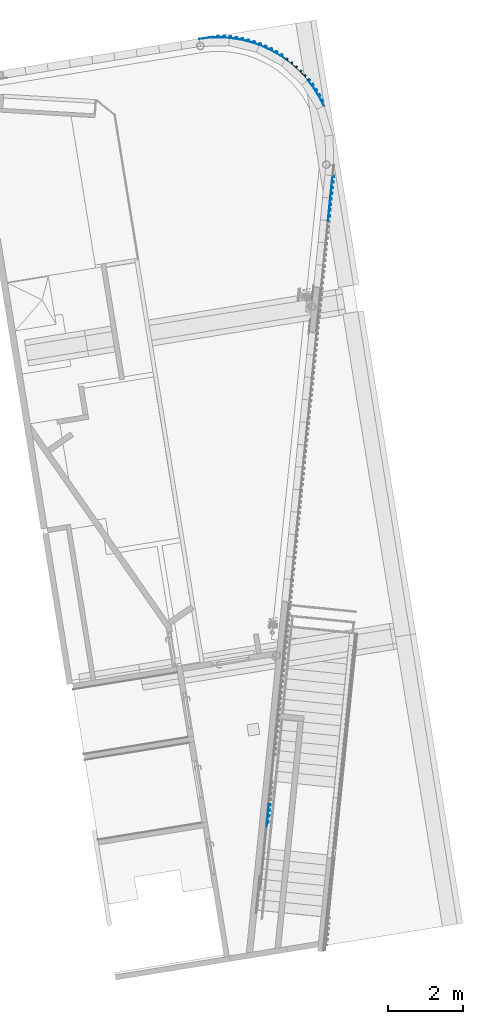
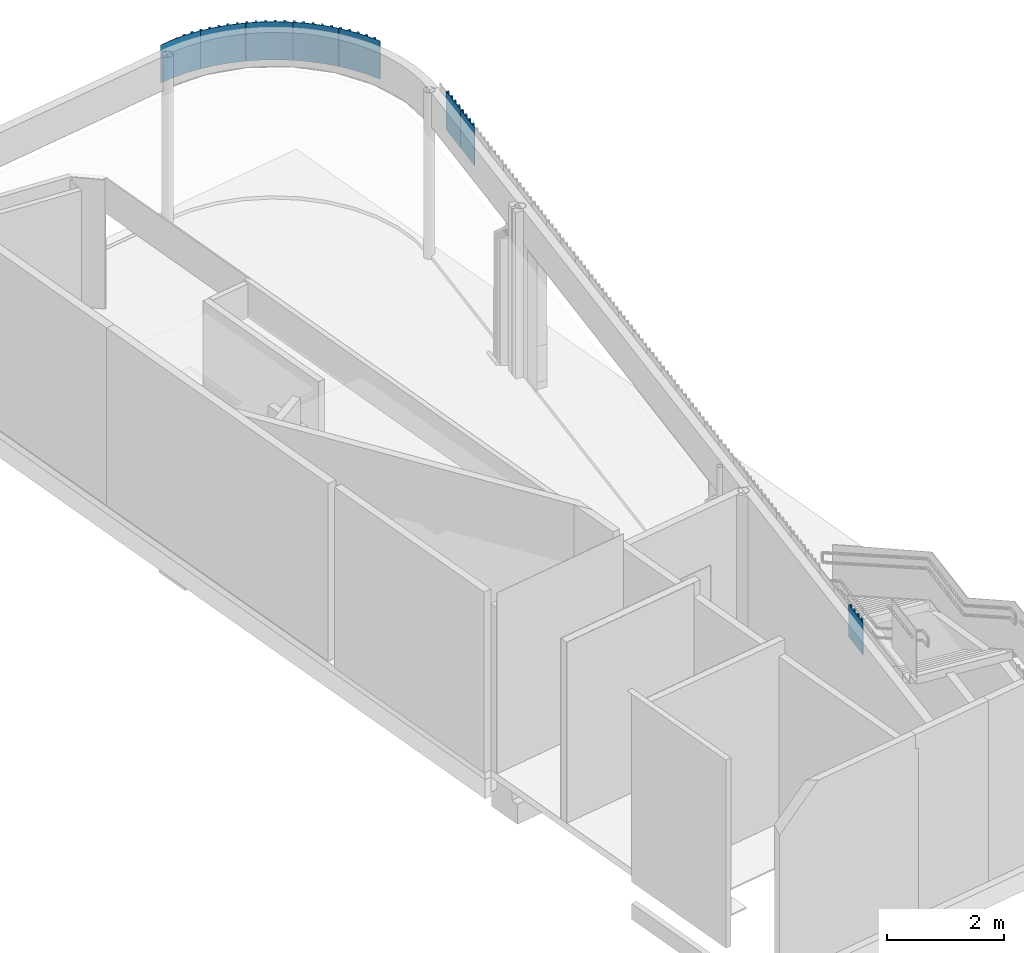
# One storey, part 17 of 23: 8 plates, 3 elements without a shape of their own.
"""IFC2X3 building model written with IfcOpenShell, lengths in millimetres."""

import ifcopenshell
import ifcopenshell.guid

model = None  # the IFC model being written
_history = None  # IfcOwnerHistory: only IFC2X3 demands one
_inside = {}  # id of a spatial element -> (the spatial element, [elements in it])
_under = {}  # id of a project, library or spatial element -> (it, [spatial elements below it])
_declared = {}  # id of a project -> (the project, [libraries it declares])
_typed = {}  # id of a type object -> (the type object, [elements of that type])
_made_of = {}  # id of a material, layer set ... -> (it, [elements and type objects made of it])


def new_model(schema):
    """Start an empty IFC model of exactly this schema.

    Asked for "IFC4X3", IfcOpenShell would pick the latest addendum, in which some entities
    have other attributes; the version numbers below select the first issue.
    IFC2X3 requires an IfcOwnerHistory on every rooted entity: one is made here for all.
    """
    global model, _history
    if schema == "IFC4X3":
        model = ifcopenshell.file(schema_version=(4, 3, 0, 0))
    else:
        model = ifcopenshell.file(schema=schema)
    _inside.clear()
    _under.clear()
    _declared.clear()
    _typed.clear()
    _made_of.clear()
    _history = None
    if model.schema == "IFC2X3":
        org = make("IfcOrganization", Name="unknown")
        user = make(
            "IfcPersonAndOrganization",
            ThePerson=make("IfcPerson", FamilyName="unknown"),
            TheOrganization=org,
        )
        app = make(
            "IfcApplication",
            ApplicationDeveloper=org,
            Version="unknown",
            ApplicationFullName="unknown",
            ApplicationIdentifier="unknown",
        )
        _history = make(
            "IfcOwnerHistory",
            OwningUser=user,
            OwningApplication=app,
            ChangeAction="ADDED",
            CreationDate=0,
        )
    return model


def make(cls, **values):
    """One entity of the class cls with the attributes given. An attribute that is None is left unset."""
    return model.create_entity(
        cls, **{name: value for name, value in values.items() if value is not None}
    )


def entity(cls, *values):
    """Any entity or typed value of the class cls, its attributes in the order of the schema. None: left unset."""
    e = model.create_entity(cls)
    for i, value in enumerate(values):
        if value is not None:
            e[i] = value
    return e


def rooted(cls, **values):
    """An entity with a GlobalId (a new one), such as an element, a storey or a relation."""
    return make(cls, GlobalId=ifcopenshell.guid.new(), OwnerHistory=_history, **values)


def si_unit(unit_type, name, prefix=None):
    """IfcSIUnit, for example si_unit("LENGTHUNIT", "METRE", prefix="MILLI")."""
    return make("IfcSIUnit", UnitType=unit_type, Prefix=prefix, Name=name)


def converted_unit(unit_type, name, factor, base, dimensions=None, offset=None):
    """IfcConversionBasedUnit, such as the inch: factor (a typed value) times the base unit."""
    return make(
        "IfcConversionBasedUnit"
        if offset is None
        else "IfcConversionBasedUnitWithOffset",
        ConversionOffset=offset,
        Dimensions=None
        if dimensions is None
        else entity("IfcDimensionalExponents", *dimensions),
        UnitType=unit_type,
        Name=name,
        ConversionFactor=make(
            "IfcMeasureWithUnit", ValueComponent=factor, UnitComponent=base
        ),
    )


def derived_unit(unit_type, elements):
    """IfcDerivedUnit: a product of units, each with its exponent."""
    return make(
        "IfcDerivedUnit",
        Elements=[
            make("IfcDerivedUnitElement", Unit=unit, Exponent=power)
            for unit, power in elements
        ],
        UnitType=unit_type,
    )


def assignment(units):
    """IfcUnitAssignment: the units of a project."""
    return None if units is None else make("IfcUnitAssignment", Units=units)


def point(xyz):
    """IfcCartesianPoint."""
    return None if xyz is None else make("IfcCartesianPoint", Coordinates=xyz)


def direction(xyz):
    """IfcDirection."""
    return None if xyz is None else make("IfcDirection", DirectionRatios=xyz)


def frame(location, z_axis=None, x_axis=None):
    """IfcAxis2Placement3D, a coordinate frame: its origin and axes. An axis left out is left unset."""
    return make(
        "IfcAxis2Placement3D",
        Location=point(location),
        Axis=direction(z_axis),
        RefDirection=direction(x_axis),
    )


def origin():
    """The frame at (0, 0, 0) with its axes left unset."""
    return frame((0.0, 0.0, 0.0))


def origin_with_axes():
    """The frame at (0, 0, 0) with the z axis (0, 0, 1) and the x axis (1, 0, 0) written out."""
    return frame((0.0, 0.0, 0.0), z_axis=(0.0, 0.0, 1.0), x_axis=(1.0, 0.0, 0.0))


def place(relative_to, where):
    """IfcLocalPlacement: puts the frame where relative to a parent placement (None: the world)."""
    return make(
        "IfcLocalPlacement", PlacementRelTo=relative_to, RelativePlacement=where
    )


def context(
    kind, dimensions, precision=None, world=None, true_north=None, identifier=None
):
    """IfcGeometricRepresentationContext, for example the 3D "Model" context."""
    return make(
        "IfcGeometricRepresentationContext",
        ContextIdentifier=identifier,
        ContextType=kind,
        CoordinateSpaceDimension=dimensions,
        Precision=precision,
        WorldCoordinateSystem=world,
        TrueNorth=true_north,
    )


def subcontext(parent, identifier, kind, view, scale=None):
    """IfcGeometricRepresentationSubContext, for example "Body" below "Model"."""
    return make(
        "IfcGeometricRepresentationSubContext",
        ContextIdentifier=identifier,
        ContextType=kind,
        ParentContext=parent,
        TargetScale=scale,
        TargetView=view,
    )


def project(units=None, contexts=None):
    """IfcProject with its units and contexts."""
    return rooted(
        "IfcProject",
        Name="project",
        RepresentationContexts=contexts,
        UnitsInContext=assignment(units),
    )


def spatial(cls, under=None, at=None, **own):
    """A site, building, storey or space (cls), placed at a placement, below another one or the project."""
    s = rooted(cls, ObjectPlacement=at, **own)
    if under is not None:
        _under.setdefault(under.id(), (under, []))[1].append(s)
    return s


def faces_of(points, faces, orient=None, outer=None):
    """IfcFace entities. A face is a list of loops; a loop is a list of indices into points, from 0.

    orient and outer hold one flag for each loop. By default every Orientation is true, the
    first loop of a face is its IfcFaceOuterBound and the others are IfcFaceBound.
    """
    made = []
    for i, loops in enumerate(faces):
        bounds = []
        for j, loop in enumerate(loops):
            is_outer = j == 0 if outer is None else outer[i][j]
            bounds.append(
                make(
                    "IfcFaceOuterBound" if is_outer else "IfcFaceBound",
                    Bound=make("IfcPolyLoop", Polygon=[points[k] for k in loop]),
                    Orientation=True if orient is None else orient[i][j],
                )
            )
        made.append(make("IfcFace", Bounds=bounds))
    return made


def faceted_brep(points, faces, orient=None, outer=None, voids=None):
    """IfcFacetedBrep: a solid bounded by flat faces; with voids (closed shells), ...WithVoids."""
    shared = [point(p) for p in points]
    hull = make("IfcClosedShell", CfsFaces=faces_of(shared, faces, orient, outer))
    if voids is None:
        return make("IfcFacetedBrep", Outer=hull)
    return make(
        "IfcFacetedBrepWithVoids",
        Outer=hull,
        Voids=[
            make(cls, CfsFaces=faces_of(shared, fs, o, b)) for cls, fs, o, b in voids
        ],
    )


def shape(context_of_items, identifier, shape_type, items):
    """IfcShapeRepresentation: the items that make up one representation, for example the "Body"."""
    return make(
        "IfcShapeRepresentation",
        ContextOfItems=context_of_items,
        RepresentationIdentifier=identifier,
        RepresentationType=shape_type,
        Items=items,
    )


def material(Name=None, Category=None):
    """IfcMaterial."""
    return make("IfcMaterial", Name=Name, Category=Category)


def made_of(thing, what):
    """Note that an element or type object is made of a material, layer set ...; save() writes the relation."""
    if what is not None:
        _made_of.setdefault(what.id(), (what, []))[1].append(thing)
    return thing


def type_object(cls, material=None, **own):
    """A type object (cls), such as IfcWallType, which elements share."""
    return made_of(rooted(cls, **own), material)


def element(
    cls,
    number,
    at=None,
    inside=None,
    cuts=None,
    type_object=None,
    material=None,
    context=None,
    identifier="Body",
    shape_type=None,
    held_by="IfcProductDefinitionShape",
    body=None,
    shapes=None,
    **own,
):
    """One element of the class cls, such as IfcWall. Its Tag is "e" and its number.

    at: its placement. inside: the storey or other place that contains it. cuts: it is an
    opening in that element (IfcRelVoidsElement). A single representation is given by context,
    identifier, shape_type and body (its items); several are given by shapes. held_by: the class
    of the entity that holds the representations. save() writes the other relations.
    """
    e = rooted(cls, Tag="e%d" % number, ObjectPlacement=at, **own)
    if body is not None:
        shapes = [shape(context, identifier, shape_type, body)]
    if shapes is not None:
        e.Representation = make(held_by, Representations=shapes)
    if inside is not None:
        _inside.setdefault(inside.id(), (inside, []))[1].append(e)
    if cuts is not None:
        rooted(
            "IfcRelVoidsElement", RelatingBuildingElement=cuts, RelatedOpeningElement=e
        )
    if type_object is not None:
        _typed.setdefault(type_object.id(), (type_object, []))[1].append(e)
    return made_of(e, material)


def aggregate(whole, parts):
    """IfcRelAggregates: a whole, such as a stair, and the parts it consists of."""
    return rooted("IfcRelAggregates", RelatingObject=whole, RelatedObjects=parts)


def save(model, path):
    """Write the relations noted so far, then the file.

    IfcRelAggregates (storeys below a building ...), IfcRelContainedInSpatialStructure (elements
    in a storey), IfcRelDefinesByType, IfcRelAssociatesMaterial and IfcRelDeclares: one each for
    every whole, place, type object, material and project.
    """
    for whole, parts in _under.values():
        aggregate(whole, parts)
    for where, things in _inside.values():
        rooted(
            "IfcRelContainedInSpatialStructure",
            RelatedElements=things,
            RelatingStructure=where,
        )
    for kind, things in _typed.values():
        rooted("IfcRelDefinesByType", RelatedObjects=things, RelatingType=kind)
    for what, things in _made_of.values():
        rooted("IfcRelAssociatesMaterial", RelatedObjects=things, RelatingMaterial=what)
    for by, libraries in _declared.values():
        rooted("IfcRelDeclares", RelatingContext=by, RelatedDefinitions=libraries)
    model.write(path)


model = new_model("IFC2X3")

# Units and contexts
plan_context = context("Plan", 3, precision=1e-05, world=origin_with_axes())
model_context = context("Model", 3, precision=0.01, world=origin(), true_north=direction((6.12323399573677e-17, 1.0)))
body_context = subcontext(model_context, "Body", "Model", "MODEL_VIEW")
ifc_project = project(units=[converted_unit("PLANEANGLEUNIT", "DEGREE", entity("IfcPositiveLengthMeasure", 0.0174532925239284), si_unit("PLANEANGLEUNIT", "RADIAN"), dimensions=[0, 0, 0, 0, 0, 0, 0]), si_unit("AREAUNIT", "SQUARE_METRE"), si_unit("LENGTHUNIT", "METRE", prefix="MILLI"), si_unit("MASSUNIT", "GRAM", prefix="KILO"), si_unit("POWERUNIT", "WATT"), si_unit("PRESSUREUNIT", "PASCAL", prefix="KILO"), si_unit("FORCEUNIT", "NEWTON", prefix="KILO"), si_unit("ELECTRICVOLTAGEUNIT", "VOLT"), si_unit("ELECTRICCURRENTUNIT", "AMPERE"), si_unit("THERMODYNAMICTEMPERATUREUNIT", "DEGREE_CELSIUS"), si_unit("TIMEUNIT", "SECOND"), si_unit("VOLUMEUNIT", "CUBIC_METRE"), derived_unit("LINEARVELOCITYUNIT", [(si_unit("LENGTHUNIT", "METRE"), 1), (si_unit("TIMEUNIT", "SECOND"), -1)]), derived_unit("VOLUMETRICFLOWRATEUNIT", [(si_unit("VOLUMEUNIT", "CUBIC_METRE"), 1), (si_unit("TIMEUNIT", "SECOND"), -1)]), derived_unit("THERMALTRANSMITTANCEUNIT", [(si_unit("POWERUNIT", "WATT"), 1), (si_unit("THERMODYNAMICTEMPERATUREUNIT", "KELVIN"), -1), (si_unit("AREAUNIT", "SQUARE_METRE"), -1)]), derived_unit("SOUNDPRESSUREUNIT", [(si_unit("PRESSUREUNIT", "PASCAL"), 1)])], contexts=[model_context, plan_context])

# Site, building, storey
site_placement = place(None, frame((-0.00071070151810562, 0.00438415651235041, 0.0), z_axis=(0.0, 0.0, 1.0), x_axis=(-0.160236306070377, 0.987078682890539, 0.0)))
site = spatial("IfcSite", under=ifc_project, at=site_placement, Name="Default", CompositionType="ELEMENT")
building_placement = place(site_placement, origin_with_axes())
building = spatial("IfcBuilding", under=site, at=building_placement, Name="TOO", CompositionType="ELEMENT")
storey_placement = place(building_placement, frame((0.0, 0.0, 58999.9999999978), z_axis=(0.0, 0.0, 1.0), x_axis=(1.0, 0.0, 0.0)))
storey = spatial("IfcBuildingStorey", under=building, at=storey_placement, Name="Nivå F", CompositionType="ELEMENT", Elevation=58999.9999999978)

# Curtain wall, plates
curtain_wall_type = type_object("IfcCurtainWallType", Name="Curtain Wall:Curtain Wall Standard (Bruk kun denne)", PredefinedType="NOTDEFINED")
curtain_wall_1_placement = place(storey_placement, frame((0.0, 0.0, -58999.9999999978), z_axis=(0.0, 0.0, 1.0), x_axis=(1.0, 0.0, 0.0)))
curtain_wall_1 = element("IfcCurtainWall", 1, at=curtain_wall_1_placement, inside=storey, type_object=curtain_wall_type, Name="Curtain Wall:Curtain Wall Standard (Bruk kun denne)", ObjectType="Curtain Wall:Curtain Wall Standard (Bruk kun denne)")
ifc_material = material(Name="A200 - Treverk - Eik")
plate_type_1 = type_object("IfcPlateType", Name="A246 - T05 Trespiler-panel buet 3m radius:A246-T05 Trespiler-panel buet 3m radius", PredefinedType="CURTAIN_PANEL", material=ifc_material)
plate_1_placement = place(curtain_wall_1_placement, frame((787334.975045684, -507501.171026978, 61702.4999999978), z_axis=(0.0, 0.0, 1.0), x_axis=(-0.130526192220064, -0.991444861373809, 0.0)))
plate_1 = element("IfcPlate", 2, at=plate_1_placement, type_object=plate_type_1, Name="A246 - T05 Trespiler-panel buet 3m radius:A246-T05 Trespiler-panel buet 3m radius", ObjectType="A246 - T05 Trespiler-panel buet 3m radius:A246-T05 Trespiler-panel buet 3m radius", context=body_context, shape_type="Brep", body=[
    faceted_brep([(242.443684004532, 26.8889129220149, 797.499999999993), (282.299229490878, 23.4925186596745, 797.499999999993), (282.299229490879, 23.4925186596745, 0.0), (242.443684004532, 26.8889129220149, 0.0), (285.695623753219, 63.3480641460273, 797.499999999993), (285.695623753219, 63.3480641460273, 0.0), (245.840078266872, 66.7444584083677, 797.499999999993), (245.840078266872, 66.7444584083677, 0.0)], [[[0, 1, 2, 3]], [[1, 4, 5, 2]], [[4, 6, 7, 5]], [[6, 0, 3, 7]], [[3, 2, 5, 7]], [[6, 4, 1, 0]]], orient=[[False], [False], [False], [False], [False], [False]]),
    faceted_brep([(80.8884645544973, 35.3556632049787, 797.499999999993), (120.867142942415, 34.0498016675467, 797.499999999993), (120.867142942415, 34.0498016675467, 0.0), (80.8884645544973, 35.3556632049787, 0.0), (122.031771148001, 69.7046510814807, 797.499999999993), (122.031771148, 69.7046510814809, 0.0), (81.8375915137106, 64.4129869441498, 0.0), (81.8375915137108, 64.4129869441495, 797.499999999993)], [[[0, 1, 2, 3]], [[1, 4, 5, 2]], [[6, 7, 0, 3]], [[5, 6, 3, 2]], [[7, 6, 5, 4]], [[4, 1, 0, 7]]], orient=[[False], [False], [False], [False], [False], [False]]),
    faceted_brep([(-80.8884645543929, 35.3556632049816, 797.499999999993), (-40.8962320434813, 36.1439136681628, 797.499999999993), (-40.8962320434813, 36.1439136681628, 0.0), (-80.8884645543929, 35.3556632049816, 0.0), (-41.1343203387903, 48.2234276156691, 797.499999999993), (-41.1343203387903, 48.2234276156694, 0.0), (-81.0385425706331, 42.9699370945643, 0.0), (-81.0385425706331, 42.969937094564, 797.499999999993)], [[[0, 1, 2, 3]], [[1, 4, 5, 2]], [[6, 7, 0, 3]], [[5, 6, 3, 2]], [[7, 6, 5, 4]], [[4, 1, 0, 7]]], orient=[[False], [False], [False], [False], [False], [False]]),
    faceted_brep([(-134.783906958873, 33.4088316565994, 797.499999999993), (-191.06058753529, 28.4852600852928, 797.499999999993), (-191.06058753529, 28.4852600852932, 0.0), (-134.783906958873, 33.4088316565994, 0.0), (403.325933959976, 9.9144486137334, 797.499999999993), (134.783906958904, 33.4088316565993, 797.499999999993), (134.783906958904, 33.4088316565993, 0.0), (403.325933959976, 9.9144486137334, 0.0), (-402.112790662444, 0.69971042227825, 0.0), (-402.112790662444, 0.699710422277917, 797.499999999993), (-402.020672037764, -8.66240412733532e-12, 797.499999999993), (-402.020672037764, -8.66240412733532e-12, 0.0), (-134.347713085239, 23.4183494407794, 797.499999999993), (-134.347713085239, 23.4183494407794, 0.0), (134.347713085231, 23.4183494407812, 797.499999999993), (134.347713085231, 23.4183494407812, 0.0), (402.020672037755, -2.67963429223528e-12, 797.499999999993), (402.020672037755, -2.67963429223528e-12, 0.0)], [[[0, 1, 2, 3]], [[4, 5, 6, 7]], [[5, 0, 3, 6]], [[8, 9, 10, 11]], [[10, 12, 13, 11]], [[12, 14, 15, 13]], [[14, 16, 17, 15]], [[16, 4, 7, 17]], [[2, 8, 11, 13, 15, 17, 7, 6, 3]], [[9, 8, 2, 1]], [[1, 0, 5, 4, 16, 14, 12, 10, 9]]], orient=[[False], [False], [False], [False], [False], [False], [False], [False], [False], [False], [False]]),
])
plate_2_placement = place(curtain_wall_1_placement, frame((787127.98429453, -508273.671026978, 61702.4999999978), z_axis=(0.0, 0.0, 1.0), x_axis=(-0.382683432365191, -0.923879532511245, 0.0)))
plate_2 = element("IfcPlate", 3, at=plate_2_placement, type_object=plate_type_1, Name="A246 - T05 Trespiler-panel buet 3m radius:A246-T05 Trespiler-panel buet 3m radius", ObjectType="A246 - T05 Trespiler-panel buet 3m radius:A246-T05 Trespiler-panel buet 3m radius", context=body_context, shape_type="Brep", body=[
    faceted_brep([(242.443684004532, 26.8889129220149, 797.499999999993), (282.299229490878, 23.4925186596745, 797.499999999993), (282.299229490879, 23.4925186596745, 0.0), (242.443684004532, 26.8889129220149, 0.0), (285.695623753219, 63.3480641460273, 797.499999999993), (285.695623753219, 63.3480641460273, 0.0), (245.840078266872, 66.7444584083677, 797.499999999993), (245.840078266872, 66.7444584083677, 0.0)], [[[0, 1, 2, 3]], [[1, 4, 5, 2]], [[4, 6, 7, 5]], [[6, 0, 3, 7]], [[3, 2, 5, 7]], [[6, 4, 1, 0]]], orient=[[False], [False], [False], [False], [False], [False]]),
    faceted_brep([(80.8884645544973, 35.3556632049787, 797.499999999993), (120.867142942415, 34.0498016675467, 797.499999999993), (120.867142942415, 34.0498016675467, 0.0), (80.8884645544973, 35.3556632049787, 0.0), (122.173004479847, 74.0284800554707, 797.499999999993), (122.173004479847, 74.0284800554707, 0.0), (82.1943260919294, 75.3343415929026, 797.499999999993), (82.1943260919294, 75.3343415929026, 0.0)], [[[0, 1, 2, 3]], [[1, 4, 5, 2]], [[4, 6, 7, 5]], [[6, 0, 3, 7]], [[3, 2, 5, 7]], [[6, 4, 1, 0]]], orient=[[False], [False], [False], [False], [False], [False]]),
    faceted_brep([(-80.8884645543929, 35.3556632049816, 797.499999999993), (-40.8962320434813, 36.1439136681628, 797.499999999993), (-40.8962320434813, 36.1439136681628, 0.0), (-80.8884645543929, 35.3556632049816, 0.0), (-41.6844825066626, 76.1361461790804, 797.499999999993), (-41.6844825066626, 76.1361461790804, 0.0), (-81.6767150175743, 75.3478957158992, 797.499999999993), (-81.6767150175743, 75.3478957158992, 0.0)], [[[0, 1, 2, 3]], [[1, 4, 5, 2]], [[4, 6, 7, 5]], [[6, 0, 3, 7]], [[3, 2, 5, 7]], [[6, 4, 1, 0]]], orient=[[False], [False], [False], [False], [False], [False]]),
    faceted_brep([(-242.443684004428, 26.8889129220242, 797.499999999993), (-202.547513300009, 29.7691148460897, 797.499999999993), (-202.547513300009, 29.7691148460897, 0.0), (-242.443684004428, 26.8889129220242, 0.0), (-205.427715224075, 69.6652855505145, 797.499999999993), (-205.427715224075, 69.6652855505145, 0.0), (-245.323885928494, 66.785083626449, 797.499999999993), (-245.323885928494, 66.785083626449, 0.0)], [[[0, 1, 2, 3]], [[1, 4, 5, 2]], [[4, 6, 7, 5]], [[6, 0, 3, 7]], [[3, 2, 5, 7]], [[6, 4, 1, 0]]], orient=[[False], [False], [False], [False], [False], [False]]),
    faceted_brep([(-403.334382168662, 9.97861913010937, 797.499999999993), (-363.643625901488, 14.9428780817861, 797.499999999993), (-363.643625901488, 14.9428780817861, 0.0), (-403.334382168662, 9.97861913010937, 0.0), (-368.607884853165, 54.6336343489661, 797.499999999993), (-368.607884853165, 54.6336343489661, 0.0), (-408.29864112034, 49.6693753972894, 797.499999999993), (-408.29864112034, 49.6693753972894, 0.0)], [[[0, 1, 2, 3]], [[1, 4, 5, 2]], [[4, 6, 7, 5]], [[6, 0, 3, 7]], [[3, 2, 5, 7]], [[6, 4, 1, 0]]], orient=[[False], [False], [False], [False], [False], [False]]),
    faceted_brep([(-134.783906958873, 33.4088316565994, 797.499999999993), (-403.325933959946, 9.91444861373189, 797.499999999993), (-403.325933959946, 9.91444861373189, 0.0), (-134.783906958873, 33.4088316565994, 0.0), (403.325933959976, 9.9144486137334, 797.499999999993), (134.783906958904, 33.4088316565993, 797.499999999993), (134.783906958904, 33.4088316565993, 0.0), (403.325933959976, 9.9144486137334, 0.0), (-402.020672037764, -8.66240412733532e-12, 797.499999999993), (-402.020672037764, -8.66240412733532e-12, 0.0), (-134.347713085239, 23.4183494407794, 797.499999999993), (-134.347713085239, 23.4183494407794, 0.0), (134.347713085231, 23.4183494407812, 797.499999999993), (134.347713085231, 23.4183494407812, 0.0), (402.020672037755, -2.67963429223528e-12, 797.499999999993), (402.020672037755, -2.67963429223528e-12, 0.0)], [[[0, 1, 2, 3]], [[4, 5, 6, 7]], [[5, 0, 3, 6]], [[1, 8, 9, 2]], [[8, 10, 11, 9]], [[10, 12, 13, 11]], [[12, 14, 15, 13]], [[14, 4, 7, 15]], [[3, 2, 9, 11, 13, 15, 7, 6]], [[5, 4, 14, 12, 10, 8, 1, 0]]], orient=[[False], [False], [False], [False], [False], [False], [False], [False], [False], [False]]),
])
plate_3_placement = place(curtain_wall_1_placement, frame((786728.108869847, -508966.275579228, 61702.4999999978), z_axis=(0.0, 0.0, 1.0), x_axis=(-0.608761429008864, -0.793353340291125, 0.0)))
plate_3 = element("IfcPlate", 4, at=plate_3_placement, type_object=plate_type_1, Name="A246 - T05 Trespiler-panel buet 3m radius:A246-T05 Trespiler-panel buet 3m radius", ObjectType="A246 - T05 Trespiler-panel buet 3m radius:A246-T05 Trespiler-panel buet 3m radius", context=body_context, shape_type="Brep", body=[
    faceted_brep([(242.443684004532, 26.8889129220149, 797.499999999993), (282.299229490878, 23.4925186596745, 797.499999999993), (282.299229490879, 23.4925186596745, 0.0), (242.443684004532, 26.8889129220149, 0.0), (285.695623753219, 63.3480641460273, 797.499999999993), (285.695623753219, 63.3480641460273, 0.0), (245.840078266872, 66.7444584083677, 797.499999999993), (245.840078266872, 66.7444584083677, 0.0)], [[[0, 1, 2, 3]], [[1, 4, 5, 2]], [[4, 6, 7, 5]], [[6, 0, 3, 7]], [[3, 2, 5, 7]], [[6, 4, 1, 0]]], orient=[[False], [False], [False], [False], [False], [False]]),
    faceted_brep([(80.8884645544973, 35.3556632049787, 797.499999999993), (120.867142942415, 34.0498016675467, 797.499999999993), (120.867142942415, 34.0498016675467, 0.0), (80.8884645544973, 35.3556632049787, 0.0), (122.173004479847, 74.0284800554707, 797.499999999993), (122.173004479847, 74.0284800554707, 0.0), (82.1943260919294, 75.3343415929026, 797.499999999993), (82.1943260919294, 75.3343415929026, 0.0)], [[[0, 1, 2, 3]], [[1, 4, 5, 2]], [[4, 6, 7, 5]], [[6, 0, 3, 7]], [[3, 2, 5, 7]], [[6, 4, 1, 0]]], orient=[[False], [False], [False], [False], [False], [False]]),
    faceted_brep([(-80.8884645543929, 35.3556632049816, 797.499999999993), (-40.8962320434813, 36.1439136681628, 797.499999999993), (-40.8962320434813, 36.1439136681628, 0.0), (-80.8884645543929, 35.3556632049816, 0.0), (-41.6844825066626, 76.1361461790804, 797.499999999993), (-41.6844825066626, 76.1361461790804, 0.0), (-81.6767150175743, 75.3478957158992, 797.499999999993), (-81.6767150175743, 75.3478957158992, 0.0)], [[[0, 1, 2, 3]], [[1, 4, 5, 2]], [[4, 6, 7, 5]], [[6, 0, 3, 7]], [[3, 2, 5, 7]], [[6, 4, 1, 0]]], orient=[[False], [False], [False], [False], [False], [False]]),
    faceted_brep([(-242.443684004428, 26.8889129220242, 797.499999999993), (-202.547513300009, 29.7691148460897, 797.499999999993), (-202.547513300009, 29.7691148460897, 0.0), (-242.443684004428, 26.8889129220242, 0.0), (-205.427715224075, 69.6652855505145, 797.499999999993), (-205.427715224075, 69.6652855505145, 0.0), (-245.323885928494, 66.785083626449, 797.499999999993), (-245.323885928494, 66.785083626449, 0.0)], [[[0, 1, 2, 3]], [[1, 4, 5, 2]], [[4, 6, 7, 5]], [[6, 0, 3, 7]], [[3, 2, 5, 7]], [[6, 4, 1, 0]]], orient=[[False], [False], [False], [False], [False], [False]]),
    faceted_brep([(-403.334382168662, 9.97861913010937, 797.499999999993), (-363.643625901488, 14.9428780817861, 797.499999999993), (-363.643625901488, 14.9428780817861, 0.0), (-403.334382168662, 9.97861913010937, 0.0), (-368.607884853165, 54.6336343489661, 797.499999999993), (-368.607884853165, 54.6336343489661, 0.0), (-408.29864112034, 49.6693753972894, 797.499999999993), (-408.29864112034, 49.6693753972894, 0.0)], [[[0, 1, 2, 3]], [[1, 4, 5, 2]], [[4, 6, 7, 5]], [[6, 0, 3, 7]], [[3, 2, 5, 7]], [[6, 4, 1, 0]]], orient=[[False], [False], [False], [False], [False], [False]]),
    faceted_brep([(-134.783906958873, 33.4088316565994, 797.499999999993), (-403.325933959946, 9.91444861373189, 797.499999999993), (-403.325933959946, 9.91444861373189, 0.0), (-134.783906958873, 33.4088316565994, 0.0), (403.325933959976, 9.9144486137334, 797.499999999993), (134.783906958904, 33.4088316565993, 797.499999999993), (134.783906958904, 33.4088316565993, 0.0), (403.325933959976, 9.9144486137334, 0.0), (-402.020672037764, -8.66240412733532e-12, 797.499999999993), (-402.020672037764, -8.66240412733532e-12, 0.0), (-134.347713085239, 23.4183494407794, 797.499999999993), (-134.347713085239, 23.4183494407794, 0.0), (134.347713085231, 23.4183494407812, 797.499999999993), (134.347713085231, 23.4183494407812, 0.0), (402.020672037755, -2.67963429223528e-12, 797.499999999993), (402.020672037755, -2.67963429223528e-12, 0.0)], [[[0, 1, 2, 3]], [[4, 5, 6, 7]], [[5, 0, 3, 6]], [[1, 8, 9, 2]], [[8, 10, 11, 9]], [[10, 12, 13, 11]], [[12, 14, 15, 13]], [[14, 4, 7, 15]], [[3, 2, 9, 11, 13, 15, 7, 6]], [[5, 4, 14, 12, 10, 8, 1, 0]]], orient=[[False], [False], [False], [False], [False], [False], [False], [False], [False], [False]]),
])
plate_4_placement = place(curtain_wall_1_placement, frame((786162.599621, -509531.784828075, 61702.4999999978), z_axis=(0.0, 0.0, 1.0), x_axis=(-0.793353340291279, -0.608761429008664, 0.0)))
plate_4 = element("IfcPlate", 5, at=plate_4_placement, type_object=plate_type_1, Name="A246 - T05 Trespiler-panel buet 3m radius:A246-T05 Trespiler-panel buet 3m radius", ObjectType="A246 - T05 Trespiler-panel buet 3m radius:A246-T05 Trespiler-panel buet 3m radius", context=body_context, shape_type="Brep", body=[
    faceted_brep([(242.443684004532, 26.8889129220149, 797.499999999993), (282.299229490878, 23.4925186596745, 797.499999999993), (282.299229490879, 23.4925186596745, 0.0), (242.443684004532, 26.8889129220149, 0.0), (285.695623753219, 63.3480641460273, 797.499999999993), (285.695623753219, 63.3480641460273, 0.0), (245.840078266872, 66.7444584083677, 797.499999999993), (245.840078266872, 66.7444584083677, 0.0)], [[[0, 1, 2, 3]], [[1, 4, 5, 2]], [[4, 6, 7, 5]], [[6, 0, 3, 7]], [[3, 2, 5, 7]], [[6, 4, 1, 0]]], orient=[[False], [False], [False], [False], [False], [False]]),
    faceted_brep([(80.8884645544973, 35.3556632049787, 797.499999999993), (120.867142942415, 34.0498016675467, 797.499999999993), (120.867142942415, 34.0498016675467, 0.0), (80.8884645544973, 35.3556632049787, 0.0), (122.173004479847, 74.0284800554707, 797.499999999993), (122.173004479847, 74.0284800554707, 0.0), (82.1943260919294, 75.3343415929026, 797.499999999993), (82.1943260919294, 75.3343415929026, 0.0)], [[[0, 1, 2, 3]], [[1, 4, 5, 2]], [[4, 6, 7, 5]], [[6, 0, 3, 7]], [[3, 2, 5, 7]], [[6, 4, 1, 0]]], orient=[[False], [False], [False], [False], [False], [False]]),
    faceted_brep([(-80.8884645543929, 35.3556632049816, 797.499999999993), (-40.8962320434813, 36.1439136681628, 797.499999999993), (-40.8962320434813, 36.1439136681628, 0.0), (-80.8884645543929, 35.3556632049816, 0.0), (-41.6844825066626, 76.1361461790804, 797.499999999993), (-41.6844825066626, 76.1361461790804, 0.0), (-81.6767150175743, 75.3478957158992, 797.499999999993), (-81.6767150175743, 75.3478957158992, 0.0)], [[[0, 1, 2, 3]], [[1, 4, 5, 2]], [[4, 6, 7, 5]], [[6, 0, 3, 7]], [[3, 2, 5, 7]], [[6, 4, 1, 0]]], orient=[[False], [False], [False], [False], [False], [False]]),
    faceted_brep([(-242.443684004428, 26.8889129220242, 797.499999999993), (-202.547513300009, 29.7691148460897, 797.499999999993), (-202.547513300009, 29.7691148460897, 0.0), (-242.443684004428, 26.8889129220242, 0.0), (-205.427715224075, 69.6652855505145, 797.499999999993), (-205.427715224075, 69.6652855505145, 0.0), (-245.323885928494, 66.785083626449, 797.499999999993), (-245.323885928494, 66.785083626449, 0.0)], [[[0, 1, 2, 3]], [[1, 4, 5, 2]], [[4, 6, 7, 5]], [[6, 0, 3, 7]], [[3, 2, 5, 7]], [[6, 4, 1, 0]]], orient=[[False], [False], [False], [False], [False], [False]]),
    faceted_brep([(-403.334382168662, 9.97861913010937, 797.499999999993), (-363.643625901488, 14.9428780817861, 797.499999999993), (-363.643625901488, 14.9428780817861, 0.0), (-403.334382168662, 9.97861913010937, 0.0), (-368.607884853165, 54.6336343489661, 797.499999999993), (-368.607884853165, 54.6336343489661, 0.0), (-408.29864112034, 49.6693753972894, 797.499999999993), (-408.29864112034, 49.6693753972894, 0.0)], [[[0, 1, 2, 3]], [[1, 4, 5, 2]], [[4, 6, 7, 5]], [[6, 0, 3, 7]], [[3, 2, 5, 7]], [[6, 4, 1, 0]]], orient=[[False], [False], [False], [False], [False], [False]]),
    faceted_brep([(-134.783906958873, 33.4088316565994, 797.499999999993), (-403.325933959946, 9.91444861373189, 797.499999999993), (-403.325933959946, 9.91444861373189, 0.0), (-134.783906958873, 33.4088316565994, 0.0), (403.325933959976, 9.9144486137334, 797.499999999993), (134.783906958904, 33.4088316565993, 797.499999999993), (134.783906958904, 33.4088316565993, 0.0), (403.325933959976, 9.9144486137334, 0.0), (-402.020672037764, -8.66240412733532e-12, 797.499999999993), (-402.020672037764, -8.66240412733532e-12, 0.0), (-134.347713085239, 23.4183494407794, 797.499999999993), (-134.347713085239, 23.4183494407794, 0.0), (134.347713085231, 23.4183494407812, 797.499999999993), (134.347713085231, 23.4183494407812, 0.0), (402.020672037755, -2.67963429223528e-12, 797.499999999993), (402.020672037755, -2.67963429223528e-12, 0.0)], [[[0, 1, 2, 3]], [[4, 5, 6, 7]], [[5, 0, 3, 6]], [[1, 8, 9, 2]], [[8, 10, 11, 9]], [[10, 12, 13, 11]], [[12, 14, 15, 13]], [[14, 4, 7, 15]], [[3, 2, 9, 11, 13, 15, 7, 6]], [[5, 4, 14, 12, 10, 8, 1, 0]]], orient=[[False], [False], [False], [False], [False], [False], [False], [False], [False], [False]]),
])
plate_5_placement = place(curtain_wall_1_placement, frame((785469.99506875, -509931.660252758, 61702.4999999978), z_axis=(0.0, 0.0, 1.0), x_axis=(-0.92387953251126, -0.382683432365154, 0.0)))
plate_5 = element("IfcPlate", 6, at=plate_5_placement, type_object=plate_type_1, Name="A246 - T05 Trespiler-panel buet 3m radius:A246-T05 Trespiler-panel buet 3m radius", ObjectType="A246 - T05 Trespiler-panel buet 3m radius:A246-T05 Trespiler-panel buet 3m radius", context=body_context, shape_type="Brep", body=[
    faceted_brep([(242.443684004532, 26.8889129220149, 797.499999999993), (282.299229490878, 23.4925186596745, 797.499999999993), (282.299229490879, 23.4925186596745, 0.0), (242.443684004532, 26.8889129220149, 0.0), (285.695623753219, 63.3480641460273, 797.499999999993), (285.695623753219, 63.3480641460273, 0.0), (245.840078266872, 66.7444584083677, 797.499999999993), (245.840078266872, 66.7444584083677, 0.0)], [[[0, 1, 2, 3]], [[1, 4, 5, 2]], [[4, 6, 7, 5]], [[6, 0, 3, 7]], [[3, 2, 5, 7]], [[6, 4, 1, 0]]], orient=[[False], [False], [False], [False], [False], [False]]),
    faceted_brep([(80.8884645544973, 35.3556632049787, 797.499999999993), (120.867142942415, 34.0498016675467, 797.499999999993), (120.867142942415, 34.0498016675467, 0.0), (80.8884645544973, 35.3556632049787, 0.0), (122.173004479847, 74.0284800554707, 797.499999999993), (122.173004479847, 74.0284800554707, 0.0), (82.1943260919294, 75.3343415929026, 797.499999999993), (82.1943260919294, 75.3343415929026, 0.0)], [[[0, 1, 2, 3]], [[1, 4, 5, 2]], [[4, 6, 7, 5]], [[6, 0, 3, 7]], [[3, 2, 5, 7]], [[6, 4, 1, 0]]], orient=[[False], [False], [False], [False], [False], [False]]),
    faceted_brep([(-80.8884645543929, 35.3556632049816, 797.499999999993), (-40.8962320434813, 36.1439136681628, 797.499999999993), (-40.8962320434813, 36.1439136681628, 0.0), (-80.8884645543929, 35.3556632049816, 0.0), (-41.6844825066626, 76.1361461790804, 797.499999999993), (-41.6844825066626, 76.1361461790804, 0.0), (-81.6767150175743, 75.3478957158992, 797.499999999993), (-81.6767150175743, 75.3478957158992, 0.0)], [[[0, 1, 2, 3]], [[1, 4, 5, 2]], [[4, 6, 7, 5]], [[6, 0, 3, 7]], [[3, 2, 5, 7]], [[6, 4, 1, 0]]], orient=[[False], [False], [False], [False], [False], [False]]),
    faceted_brep([(-242.443684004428, 26.8889129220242, 797.499999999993), (-202.547513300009, 29.7691148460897, 797.499999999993), (-202.547513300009, 29.7691148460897, 0.0), (-242.443684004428, 26.8889129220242, 0.0), (-205.427715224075, 69.6652855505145, 797.499999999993), (-205.427715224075, 69.6652855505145, 0.0), (-245.323885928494, 66.785083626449, 797.499999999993), (-245.323885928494, 66.785083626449, 0.0)], [[[0, 1, 2, 3]], [[1, 4, 5, 2]], [[4, 6, 7, 5]], [[6, 0, 3, 7]], [[3, 2, 5, 7]], [[6, 4, 1, 0]]], orient=[[False], [False], [False], [False], [False], [False]]),
    faceted_brep([(-403.334382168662, 9.97861913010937, 797.499999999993), (-363.643625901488, 14.9428780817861, 797.499999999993), (-363.643625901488, 14.9428780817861, 0.0), (-403.334382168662, 9.97861913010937, 0.0), (-368.607884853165, 54.6336343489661, 797.499999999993), (-368.607884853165, 54.6336343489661, 0.0), (-408.29864112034, 49.6693753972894, 797.499999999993), (-408.29864112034, 49.6693753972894, 0.0)], [[[0, 1, 2, 3]], [[1, 4, 5, 2]], [[4, 6, 7, 5]], [[6, 0, 3, 7]], [[3, 2, 5, 7]], [[6, 4, 1, 0]]], orient=[[False], [False], [False], [False], [False], [False]]),
    faceted_brep([(-134.783906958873, 33.4088316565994, 797.499999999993), (-403.325933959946, 9.91444861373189, 797.499999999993), (-403.325933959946, 9.91444861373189, 0.0), (-134.783906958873, 33.4088316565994, 0.0), (403.325933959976, 9.9144486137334, 797.499999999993), (134.783906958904, 33.4088316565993, 797.499999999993), (134.783906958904, 33.4088316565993, 0.0), (403.325933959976, 9.9144486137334, 0.0), (-402.020672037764, -8.66240412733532e-12, 797.499999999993), (-402.020672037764, -8.66240412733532e-12, 0.0), (-134.347713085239, 23.4183494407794, 797.499999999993), (-134.347713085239, 23.4183494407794, 0.0), (134.347713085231, 23.4183494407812, 797.499999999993), (134.347713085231, 23.4183494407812, 0.0), (402.020672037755, -2.67963429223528e-12, 797.499999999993), (402.020672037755, -2.67963429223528e-12, 0.0)], [[[0, 1, 2, 3]], [[4, 5, 6, 7]], [[5, 0, 3, 6]], [[1, 8, 9, 2]], [[8, 10, 11, 9]], [[10, 12, 13, 11]], [[12, 14, 15, 13]], [[14, 4, 7, 15]], [[3, 2, 9, 11, 13, 15, 7, 6]], [[5, 4, 14, 12, 10, 8, 1, 0]]], orient=[[False], [False], [False], [False], [False], [False], [False], [False], [False], [False]]),
])
aggregate(curtain_wall_1, [plate_1, plate_2, plate_3, plate_4, plate_5])

# Curtain wall, plate
curtain_wall_2_placement = place(storey_placement, frame((0.0, 0.0, -58999.9999999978), z_axis=(0.0, 0.0, 1.0), x_axis=(1.0, 0.0, 0.0)))
curtain_wall_2 = element("IfcCurtainWall", 7, at=curtain_wall_2_placement, inside=storey, type_object=curtain_wall_type, Name="Curtain Wall:Curtain Wall Standard (Bruk kun denne)", ObjectType="Curtain Wall:Curtain Wall Standard (Bruk kun denne)")
plate_type_2 = type_object("IfcPlateType", Name="A246 - T01 Trespiler-panel 600:A246-T01 Trespiler-panel 600", PredefinedType="CURTAIN_PANEL", material=ifc_material)
plate_6_placement = place(curtain_wall_2_placement, frame((766715.935798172, -505589.301011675, 61828.260869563), z_axis=(0.0, 0.0, 1.0), x_axis=(0.965925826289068, -0.258819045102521, 0.0)))
plate_6 = element("IfcPlate", 8, at=plate_6_placement, type_object=plate_type_2, Name="A246 - T01 Trespiler-panel 600:A246-T01 Trespiler-panel 600", ObjectType="A246 - T01 Trespiler-panel 600:A246-T01 Trespiler-panel 600", context=body_context, shape_type="Brep", body=[
    faceted_brep([(-150.0, -50.0, 671.739130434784), (-150.0, -10.0, 671.739130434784), (-150.0, -10.0, 0.0), (-150.0, -50.0, 0.0), (-190.0, -10.0, 671.739130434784), (-190.0, -10.0, 0.0), (-190.0, -50.0, 671.739130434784), (-190.0, -50.0, 0.0)], [[[0, 1, 2, 3]], [[1, 4, 5, 2]], [[4, 6, 7, 5]], [[6, 0, 3, 7]], [[3, 2, 5, 7]], [[6, 4, 1, 0]]], orient=[[False], [False], [False], [False], [False], [False]]),
    faceted_brep([(3.5527136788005e-13, -50.0, 671.739130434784), (3.5527136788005e-13, -10.0, 671.739130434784), (3.5527136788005e-13, -10.0, 0.0), (3.5527136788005e-13, -50.0, 0.0), (-40.0000000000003, -10.0, 671.739130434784), (-40.0000000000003, -10.0, 0.0), (-40.0000000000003, -50.0, 671.739130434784), (-40.0000000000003, -50.0, 0.0)], [[[0, 1, 2, 3]], [[1, 4, 5, 2]], [[4, 6, 7, 5]], [[6, 0, 3, 7]], [[3, 2, 5, 7]], [[6, 4, 1, 0]]], orient=[[False], [False], [False], [False], [False], [False]]),
    faceted_brep([(150.0, -50.0, 671.739130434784), (150.0, -10.0, 671.739130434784), (150.0, -10.0, 0.0), (150.0, -50.0, 0.0), (110.0, -10.0, 671.739130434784), (110.0, -10.0, 0.0), (110.0, -50.0, 671.739130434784), (110.0, -50.0, 0.0)], [[[0, 1, 2, 3]], [[1, 4, 5, 2]], [[4, 6, 7, 5]], [[6, 0, 3, 7]], [[3, 2, 5, 7]], [[6, 4, 1, 0]]], orient=[[False], [False], [False], [False], [False], [False]]),
    faceted_brep([(300.0, -50.0, 671.739130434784), (300.0, -10.0, 671.739130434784), (300.0, -10.0, 0.0), (300.0, -50.0, 0.0), (260.0, -10.0, 671.739130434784), (260.0, -10.0, 0.0), (260.0, -50.0, 671.739130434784), (260.0, -50.0, 0.0)], [[[0, 1, 2, 3]], [[1, 4, 5, 2]], [[4, 6, 7, 5]], [[6, 0, 3, 7]], [[3, 2, 5, 7]], [[6, 4, 1, 0]]], orient=[[False], [False], [False], [False], [False], [False]]),
    faceted_brep([(299.999999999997, -10.0, 671.739130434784), (299.999999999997, 0.0, 671.739130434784), (299.999999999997, 0.0, 0.0), (299.999999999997, -10.0, 0.0), (-299.999999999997, 0.0, 671.739130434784), (-299.999999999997, 0.0, 0.0), (-299.999999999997, -10.0, 671.739130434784), (-299.999999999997, -10.0, 0.0)], [[[0, 1, 2, 3]], [[1, 4, 5, 2]], [[4, 6, 7, 5]], [[6, 0, 3, 7]], [[3, 2, 5, 7]], [[6, 4, 1, 0]]], orient=[[False], [False], [False], [False], [False], [False]]),
])
aggregate(curtain_wall_2, [plate_6])

# Curtain wall, plates
curtain_wall_3_placement = place(storey_placement, frame((0.0, 0.0, -58999.9999999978), z_axis=(0.0, 0.0, 1.0), x_axis=(1.0, 0.0, 0.0)))
curtain_wall_3 = element("IfcCurtainWall", 9, at=curtain_wall_3_placement, inside=storey, type_object=curtain_wall_type, Name="Curtain Wall:Curtain Wall Standard (Bruk kun denne)", ObjectType="Curtain Wall:Curtain Wall Standard (Bruk kun denne)")
plate_type_3 = type_object("IfcPlateType", Name="A246 - T01 Trespiler-panel 600:A246-T01 Trespiler-panel 600", PredefinedType="CURTAIN_PANEL", material=ifc_material)
plate_7_placement = place(curtain_wall_3_placement, frame((782363.934184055, -509782.169542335, 61702.4999999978), z_axis=(0.0, 0.0, 1.0), x_axis=(0.965925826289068, -0.258819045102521, 0.0)))
plate_7 = element("IfcPlate", 10, at=plate_7_placement, type_object=plate_type_3, Name="A246 - T01 Trespiler-panel 600:A246-T01 Trespiler-panel 600", ObjectType="A246 - T01 Trespiler-panel 600:A246-T01 Trespiler-panel 600", context=body_context, shape_type="Brep", body=[
    faceted_brep([(-150.0, -49.999999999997, 797.499999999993), (-150.0, -10.000000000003, 797.499999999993), (-150.0, -10.000000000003, 0.0), (-150.0, -49.999999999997, 0.0), (-190.0, -10.000000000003, 797.499999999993), (-190.0, -10.000000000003, 0.0), (-190.0, -49.999999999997, 797.499999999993), (-190.0, -49.999999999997, 0.0)], [[[0, 1, 2, 3]], [[1, 4, 5, 2]], [[4, 6, 7, 5]], [[6, 0, 3, 7]], [[3, 2, 5, 7]], [[6, 4, 1, 0]]], orient=[[False], [False], [False], [False], [False], [False]]),
    faceted_brep([(-3.5527136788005e-15, -49.999999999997, 797.499999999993), (-3.5527136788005e-15, -10.000000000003, 797.499999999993), (-3.5527136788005e-15, -10.000000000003, 0.0), (-3.5527136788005e-15, -49.999999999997, 0.0), (-40.0, -10.000000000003, 797.499999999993), (-40.0, -10.000000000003, 0.0), (-40.0, -49.999999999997, 797.499999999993), (-40.0, -49.999999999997, 0.0)], [[[0, 1, 2, 3]], [[1, 4, 5, 2]], [[4, 6, 7, 5]], [[6, 0, 3, 7]], [[3, 2, 5, 7]], [[6, 4, 1, 0]]], orient=[[False], [False], [False], [False], [False], [False]]),
    faceted_brep([(150.0, -49.999999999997, 797.499999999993), (150.0, -10.000000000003, 797.499999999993), (150.0, -10.000000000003, 0.0), (150.0, -49.999999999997, 0.0), (110.0, -10.000000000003, 797.499999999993), (110.0, -10.000000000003, 0.0), (110.0, -49.999999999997, 797.499999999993), (110.0, -49.999999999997, 0.0)], [[[0, 1, 2, 3]], [[1, 4, 5, 2]], [[4, 6, 7, 5]], [[6, 0, 3, 7]], [[3, 2, 5, 7]], [[6, 4, 1, 0]]], orient=[[False], [False], [False], [False], [False], [False]]),
    faceted_brep([(300.0, -49.999999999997, 797.499999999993), (300.0, -10.000000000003, 797.499999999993), (300.0, -10.000000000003, 0.0), (300.0, -49.999999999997, 0.0), (260.0, -10.000000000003, 797.499999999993), (260.0, -10.000000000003, 0.0), (260.0, -49.999999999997, 797.499999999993), (260.0, -49.999999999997, 0.0)], [[[0, 1, 2, 3]], [[1, 4, 5, 2]], [[4, 6, 7, 5]], [[6, 0, 3, 7]], [[3, 2, 5, 7]], [[6, 4, 1, 0]]], orient=[[False], [False], [False], [False], [False], [False]]),
    faceted_brep([(300.0, -10.0, 797.499999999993), (300.0, 0.0, 797.499999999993), (300.0, 0.0, 0.0), (300.0, -10.0, 0.0), (-300.0, 0.0, 797.499999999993), (-300.0, 0.0, 0.0), (-300.0, -10.0, 797.499999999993), (-300.0, -10.0, 0.0)], [[[0, 1, 2, 3]], [[1, 4, 5, 2]], [[4, 6, 7, 5]], [[6, 0, 3, 7]], [[3, 2, 5, 7]], [[6, 4, 1, 0]]], orient=[[False], [False], [False], [False], [False], [False]]),
])
plate_8_placement = place(curtain_wall_3_placement, frame((782943.489679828, -509937.460969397, 61702.4999999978), z_axis=(0.0, 0.0, 1.0), x_axis=(0.965925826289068, -0.258819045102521, 0.0)))
plate_8 = element("IfcPlate", 11, at=plate_8_placement, type_object=plate_type_3, Name="A246 - T01 Trespiler-panel 600:A246-T01 Trespiler-panel 600", ObjectType="A246 - T01 Trespiler-panel 600:A246-T01 Trespiler-panel 600", context=body_context, shape_type="Brep", body=[
    faceted_brep([(-150.0, -49.999999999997, 797.499999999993), (-150.0, -10.000000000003, 797.499999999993), (-150.0, -10.000000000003, 0.0), (-150.0, -49.999999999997, 0.0), (-190.0, -10.000000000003, 797.499999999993), (-190.0, -10.000000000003, 0.0), (-190.0, -49.999999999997, 797.499999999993), (-190.0, -49.999999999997, 0.0)], [[[0, 1, 2, 3]], [[1, 4, 5, 2]], [[4, 6, 7, 5]], [[6, 0, 3, 7]], [[3, 2, 5, 7]], [[6, 4, 1, 0]]], orient=[[False], [False], [False], [False], [False], [False]]),
    faceted_brep([(-3.5527136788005e-15, -49.999999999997, 797.499999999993), (-3.5527136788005e-15, -10.000000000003, 797.499999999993), (-3.5527136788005e-15, -10.000000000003, 0.0), (-3.5527136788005e-15, -49.999999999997, 0.0), (-40.0, -10.000000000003, 797.499999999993), (-40.0, -10.000000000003, 0.0), (-40.0, -49.999999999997, 797.499999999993), (-40.0, -49.999999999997, 0.0)], [[[0, 1, 2, 3]], [[1, 4, 5, 2]], [[4, 6, 7, 5]], [[6, 0, 3, 7]], [[3, 2, 5, 7]], [[6, 4, 1, 0]]], orient=[[False], [False], [False], [False], [False], [False]]),
    faceted_brep([(150.0, -49.999999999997, 797.499999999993), (150.0, -10.000000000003, 797.499999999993), (150.0, -10.000000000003, 0.0), (150.0, -49.999999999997, 0.0), (110.0, -10.000000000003, 797.499999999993), (110.0, -10.000000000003, 0.0), (110.0, -49.999999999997, 797.499999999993), (110.0, -49.999999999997, 0.0)], [[[0, 1, 2, 3]], [[1, 4, 5, 2]], [[4, 6, 7, 5]], [[6, 0, 3, 7]], [[3, 2, 5, 7]], [[6, 4, 1, 0]]], orient=[[False], [False], [False], [False], [False], [False]]),
    faceted_brep([(300.0, -49.999999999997, 797.499999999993), (300.0, -10.000000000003, 797.499999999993), (300.0, -10.000000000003, 0.0), (300.0, -49.999999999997, 0.0), (260.0, -10.000000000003, 797.499999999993), (260.0, -10.000000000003, 0.0), (260.0, -49.999999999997, 797.499999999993), (260.0, -49.999999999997, 0.0)], [[[0, 1, 2, 3]], [[1, 4, 5, 2]], [[4, 6, 7, 5]], [[6, 0, 3, 7]], [[3, 2, 5, 7]], [[6, 4, 1, 0]]], orient=[[False], [False], [False], [False], [False], [False]]),
    faceted_brep([(300.0, -10.0, 797.499999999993), (300.0, 0.0, 797.499999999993), (300.0, 0.0, 0.0), (300.0, -10.0, 0.0), (-300.0, 0.0, 797.499999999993), (-300.0, 0.0, 0.0), (-300.0, -10.0, 797.499999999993), (-300.0, -10.0, 0.0)], [[[0, 1, 2, 3]], [[1, 4, 5, 2]], [[4, 6, 7, 5]], [[6, 0, 3, 7]], [[3, 2, 5, 7]], [[6, 4, 1, 0]]], orient=[[False], [False], [False], [False], [False], [False]]),
])
aggregate(curtain_wall_3, [plate_7, plate_8])

save(model, "model.ifc")
